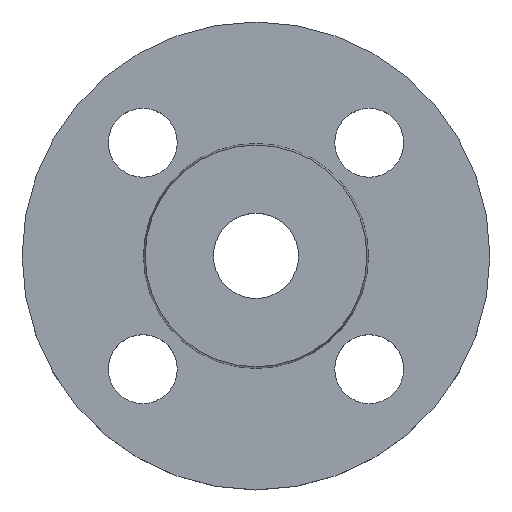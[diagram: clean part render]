
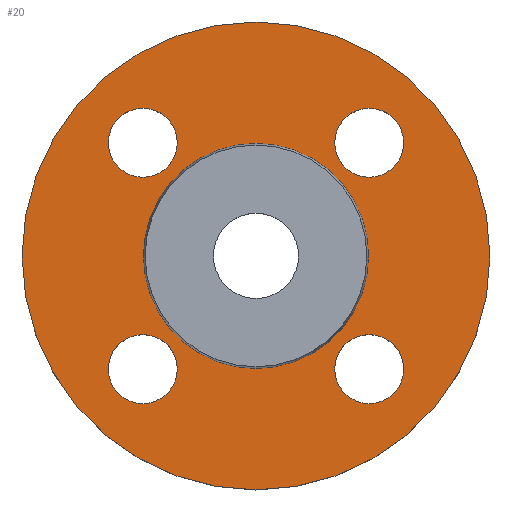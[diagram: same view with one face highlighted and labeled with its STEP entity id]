
A CAD part, top view. The second image highlights one B-rep face of the part: STEP entity #20.
In plain terms, the highlighted planar face has unit normal (0, 0, 1).
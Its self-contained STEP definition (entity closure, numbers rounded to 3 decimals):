
#3 = CIRCLE ( 'NONE', #457, 7. ) ;
#6 = CIRCLE ( 'NONE', #107, 7. ) ;
#8 = CIRCLE ( 'NONE', #146, 7. ) ;
#20 = ADVANCED_FACE ( 'NONE', ( #362, #363, #364, #366, #367, #368 ), #369, .T. ) ;
#23 = AXIS2_PLACEMENT_3D ( 'NONE', #430, #431, #432 ) ;
#40 = AXIS2_PLACEMENT_3D ( 'NONE', #90, #86, #615 ) ;
#43 = EDGE_CURVE ( 'NONE', #140, #224, #635, .T. ) ;
#60 = CIRCLE ( 'NONE', #195, 7. ) ;
#82 = CARTESIAN_POINT ( 'NONE',  ( 0., 0., -2. ) ) ;
#83 = CARTESIAN_POINT ( 'NONE',  ( 22.853, 0., -2. ) ) ;
#84 = DIRECTION ( 'NONE',  ( -1., 0., 0. ) ) ;
#86 = DIRECTION ( 'NONE',  ( 0., 0., -1. ) ) ;
#89 = EDGE_CURVE ( 'NONE', #155, #333, #3, .T. ) ;
#90 = CARTESIAN_POINT ( 'NONE',  ( -22.981, 22.981, -2. ) ) ;
#91 = DIRECTION ( 'NONE',  ( 0., 0., -1. ) ) ;
#93 = EDGE_CURVE ( 'NONE', #184, #226, #606, .T. ) ;
#107 = AXIS2_PLACEMENT_3D ( 'NONE', #446, #447, #448 ) ;
#110 = CARTESIAN_POINT ( 'NONE',  ( -15.981, 22.981, -2. ) ) ;
#111 = EDGE_CURVE ( 'NONE', #139, #277, #6, .T. ) ;
#117 = ORIENTED_EDGE ( 'NONE', *, *, #348, .T. ) ;
#126 = AXIS2_PLACEMENT_3D ( 'NONE', #82, #91, #84 ) ;
#129 = EDGE_LOOP ( 'NONE', ( #658, #227 ) ) ;
#130 = ORIENTED_EDGE ( 'NONE', *, *, #89, .T. ) ;
#137 = AXIS2_PLACEMENT_3D ( 'NONE', #503, #504, #505 ) ;
#139 = VERTEX_POINT ( 'NONE', #470 ) ;
#140 = VERTEX_POINT ( 'NONE', #471 ) ;
#146 = AXIS2_PLACEMENT_3D ( 'NONE', #618, #617, #543 ) ;
#149 = EDGE_CURVE ( 'NONE', #316, #664, #60, .T. ) ;
#153 = AXIS2_PLACEMENT_3D ( 'NONE', #611, #612, #613 ) ;
#155 = VERTEX_POINT ( 'NONE', #481 ) ;
#156 = CIRCLE ( 'NONE', #214, 22.853 ) ;
#163 = DIRECTION ( 'NONE',  ( 0., 0., -1. ) ) ;
#174 = AXIS2_PLACEMENT_3D ( 'NONE', #493, #494, #495 ) ;
#180 = EDGE_LOOP ( 'NONE', ( #268, #269 ) ) ;
#184 = VERTEX_POINT ( 'NONE', #492 ) ;
#186 = EDGE_LOOP ( 'NONE', ( #669, #217 ) ) ;
#188 = EDGE_LOOP ( 'NONE', ( #130, #667 ) ) ;
#189 = CIRCLE ( 'NONE', #174, 47.5 ) ;
#195 = AXIS2_PLACEMENT_3D ( 'NONE', #477, #478, #479 ) ;
#200 = EDGE_CURVE ( 'NONE', #226, #184, #189, .T. ) ;
#202 = CIRCLE ( 'NONE', #153, 7. ) ;
#205 = CIRCLE ( 'NONE', #137, 7. ) ;
#214 = AXIS2_PLACEMENT_3D ( 'NONE', #288, #163, #309 ) ;
#215 = EDGE_CURVE ( 'NONE', #333, #155, #205, .T. ) ;
#217 = ORIENTED_EDGE ( 'NONE', *, *, #149, .T. ) ;
#224 = VERTEX_POINT ( 'NONE', #510 ) ;
#225 = EDGE_LOOP ( 'NONE', ( #663, #337 ) ) ;
#226 = VERTEX_POINT ( 'NONE', #511 ) ;
#227 = ORIENTED_EDGE ( 'NONE', *, *, #111, .T. ) ;
#240 = CIRCLE ( 'NONE', #126, 22.853 ) ;
#255 = CIRCLE ( 'NONE', #40, 7. ) ;
#268 = ORIENTED_EDGE ( 'NONE', *, *, #93, .F. ) ;
#269 = ORIENTED_EDGE ( 'NONE', *, *, #200, .F. ) ;
#277 = VERTEX_POINT ( 'NONE', #539 ) ;
#288 = CARTESIAN_POINT ( 'NONE',  ( 0., 0., -2. ) ) ;
#294 = EDGE_CURVE ( 'NONE', #224, #140, #8, .T. ) ;
#301 = AXIS2_PLACEMENT_3D ( 'NONE', #394, #395, #397 ) ;
#309 = DIRECTION ( 'NONE',  ( -1., 0., 0. ) ) ;
#316 = VERTEX_POINT ( 'NONE', #588 ) ;
#328 = EDGE_CURVE ( 'NONE', #277, #139, #202, .T. ) ;
#333 = VERTEX_POINT ( 'NONE', #391 ) ;
#337 = ORIENTED_EDGE ( 'NONE', *, *, #43, .T. ) ;
#341 = VERTEX_POINT ( 'NONE', #83 ) ;
#348 = EDGE_CURVE ( 'NONE', #637, #341, #240, .T. ) ;
#362 = FACE_BOUND ( 'NONE', #188, .T. ) ;
#363 = FACE_BOUND ( 'NONE', #225, .T. ) ;
#364 = FACE_BOUND ( 'NONE', #186, .T. ) ;
#365 = EDGE_CURVE ( 'NONE', #664, #316, #255, .T. ) ;
#366 = FACE_BOUND ( 'NONE', #129, .T. ) ;
#367 = FACE_BOUND ( 'NONE', #649, .T. ) ;
#368 = FACE_OUTER_BOUND ( 'NONE', #180, .T. ) ;
#369 = PLANE ( 'NONE',  #512 ) ;
#370 = CARTESIAN_POINT ( 'NONE',  ( 22.853, 0., -2. ) ) ;
#372 = DIRECTION ( 'NONE',  ( 0., 0., 1. ) ) ;
#373 = DIRECTION ( 'NONE',  ( 1., 0., 0. ) ) ;
#391 = CARTESIAN_POINT ( 'NONE',  ( 15.981, -22.981, -2. ) ) ;
#394 = CARTESIAN_POINT ( 'NONE',  ( -22.981, -22.981, -2. ) ) ;
#395 = DIRECTION ( 'NONE',  ( 0., 0., -1. ) ) ;
#397 = DIRECTION ( 'NONE',  ( 1., 0., 0. ) ) ;
#426 = CARTESIAN_POINT ( 'NONE',  ( 22.981, -22.981, -2. ) ) ;
#427 = DIRECTION ( 'NONE',  ( 0., 0., -1. ) ) ;
#428 = DIRECTION ( 'NONE',  ( 1., 0., 0. ) ) ;
#430 = CARTESIAN_POINT ( 'NONE',  ( 0., 0., -2. ) ) ;
#431 = DIRECTION ( 'NONE',  ( 0., 0., -1. ) ) ;
#432 = DIRECTION ( 'NONE',  ( -1., 0., 0. ) ) ;
#446 = CARTESIAN_POINT ( 'NONE',  ( 22.981, 22.981, -2. ) ) ;
#447 = DIRECTION ( 'NONE',  ( 0., 0., -1. ) ) ;
#448 = DIRECTION ( 'NONE',  ( 1., 0., 0. ) ) ;
#457 = AXIS2_PLACEMENT_3D ( 'NONE', #426, #427, #428 ) ;
#461 = EDGE_CURVE ( 'NONE', #341, #637, #156, .T. ) ;
#470 = CARTESIAN_POINT ( 'NONE',  ( 15.981, 22.981, -2. ) ) ;
#471 = CARTESIAN_POINT ( 'NONE',  ( -29.981, -22.981, -2. ) ) ;
#477 = CARTESIAN_POINT ( 'NONE',  ( -22.981, 22.981, -2. ) ) ;
#478 = DIRECTION ( 'NONE',  ( 0., 0., -1. ) ) ;
#479 = DIRECTION ( 'NONE',  ( 1., 0., 0. ) ) ;
#481 = CARTESIAN_POINT ( 'NONE',  ( 29.981, -22.981, -2. ) ) ;
#492 = CARTESIAN_POINT ( 'NONE',  ( 47.5, 0., -2. ) ) ;
#493 = CARTESIAN_POINT ( 'NONE',  ( 0., 0., -2. ) ) ;
#494 = DIRECTION ( 'NONE',  ( 0., 0., -1. ) ) ;
#495 = DIRECTION ( 'NONE',  ( -1., 0., 0. ) ) ;
#503 = CARTESIAN_POINT ( 'NONE',  ( 22.981, -22.981, -2. ) ) ;
#504 = DIRECTION ( 'NONE',  ( 0., 0., -1. ) ) ;
#505 = DIRECTION ( 'NONE',  ( 1., 0., 0. ) ) ;
#510 = CARTESIAN_POINT ( 'NONE',  ( -15.981, -22.981, -2. ) ) ;
#511 = CARTESIAN_POINT ( 'NONE',  ( -47.5, 0., -2. ) ) ;
#512 = AXIS2_PLACEMENT_3D ( 'NONE', #370, #372, #373 ) ;
#539 = CARTESIAN_POINT ( 'NONE',  ( 29.981, 22.981, -2. ) ) ;
#543 = DIRECTION ( 'NONE',  ( 1., 0., 0. ) ) ;
#588 = CARTESIAN_POINT ( 'NONE',  ( -29.981, 22.981, -2. ) ) ;
#606 = CIRCLE ( 'NONE', #23, 47.5 ) ;
#611 = CARTESIAN_POINT ( 'NONE',  ( 22.981, 22.981, -2. ) ) ;
#612 = DIRECTION ( 'NONE',  ( 0., 0., -1. ) ) ;
#613 = DIRECTION ( 'NONE',  ( 1., 0., 0. ) ) ;
#615 = DIRECTION ( 'NONE',  ( 1., 0., 0. ) ) ;
#617 = DIRECTION ( 'NONE',  ( 0., 0., -1. ) ) ;
#618 = CARTESIAN_POINT ( 'NONE',  ( -22.981, -22.981, -2. ) ) ;
#621 = CARTESIAN_POINT ( 'NONE',  ( -22.853, 0., -2. ) ) ;
#635 = CIRCLE ( 'NONE', #301, 7. ) ;
#637 = VERTEX_POINT ( 'NONE', #621 ) ;
#649 = EDGE_LOOP ( 'NONE', ( #117, #668 ) ) ;
#658 = ORIENTED_EDGE ( 'NONE', *, *, #328, .T. ) ;
#663 = ORIENTED_EDGE ( 'NONE', *, *, #294, .T. ) ;
#664 = VERTEX_POINT ( 'NONE', #110 ) ;
#667 = ORIENTED_EDGE ( 'NONE', *, *, #215, .T. ) ;
#668 = ORIENTED_EDGE ( 'NONE', *, *, #461, .T. ) ;
#669 = ORIENTED_EDGE ( 'NONE', *, *, #365, .T. ) ;
